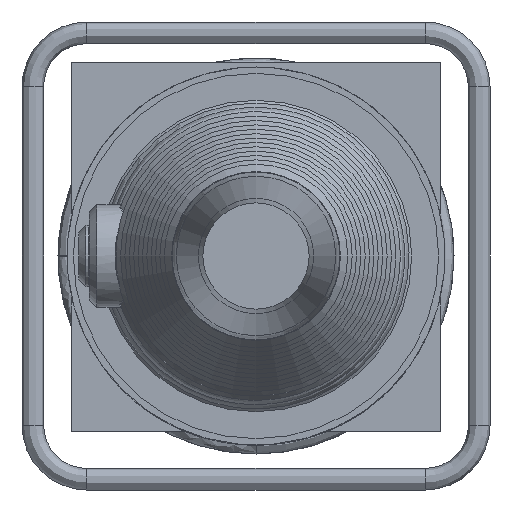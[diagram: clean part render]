
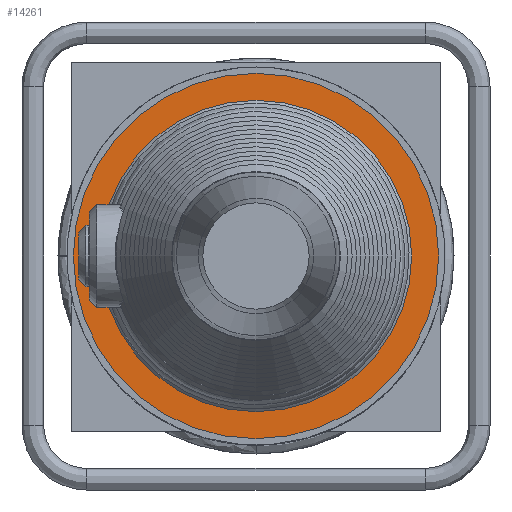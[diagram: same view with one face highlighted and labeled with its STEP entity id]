
A CAD part, left-side view. The second image highlights one B-rep face of the part: STEP entity #14261.
In plain terms, the highlighted planar face has unit normal (-1, 0, 0).
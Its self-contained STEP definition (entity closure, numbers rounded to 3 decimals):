
#1454=PLANE('',#14991);
#3339=FACE_BOUND('',#5038,.T.);
#4127=FACE_OUTER_BOUND('',#5037,.T.);
#5037=EDGE_LOOP('',(#12852));
#5038=EDGE_LOOP('',(#12853));
#5562=CIRCLE('',#14992,101.5);
#5563=CIRCLE('',#14993,86.466);
#6956=VERTEX_POINT('',#33661);
#6957=VERTEX_POINT('',#33663);
#8960=EDGE_CURVE('',#6956,#6956,#5562,.T.);
#8961=EDGE_CURVE('',#6957,#6957,#5563,.T.);
#12852=ORIENTED_EDGE('',*,*,#8960,.F.);
#12853=ORIENTED_EDGE('',*,*,#8961,.T.);
#14261=ADVANCED_FACE('',(#4127,#3339),#1454,.T.);
#14991=AXIS2_PLACEMENT_3D('',#33660,#17251,#17252);
#14992=AXIS2_PLACEMENT_3D('',#33662,#17253,#17254);
#14993=AXIS2_PLACEMENT_3D('',#33664,#17255,#17256);
#17251=DIRECTION('center_axis',(-1.,0.,0.));
#17252=DIRECTION('ref_axis',(0.,1.,0.));
#17253=DIRECTION('center_axis',(1.,0.,0.));
#17254=DIRECTION('ref_axis',(0.,0.,
1.));
#17255=DIRECTION('center_axis',(1.,0.,0.));
#17256=DIRECTION('ref_axis',(0.,0.,
1.));
#33660=CARTESIAN_POINT('Origin',(-192.651,0.,
93.983));
#33661=CARTESIAN_POINT('',(-192.651,0.,101.5));
#33662=CARTESIAN_POINT('Origin',(-192.651,0.,
0.));
#33663=CARTESIAN_POINT('',(-192.651,0.,86.466));
#33664=CARTESIAN_POINT('Origin',(-192.651,0.,
0.));
